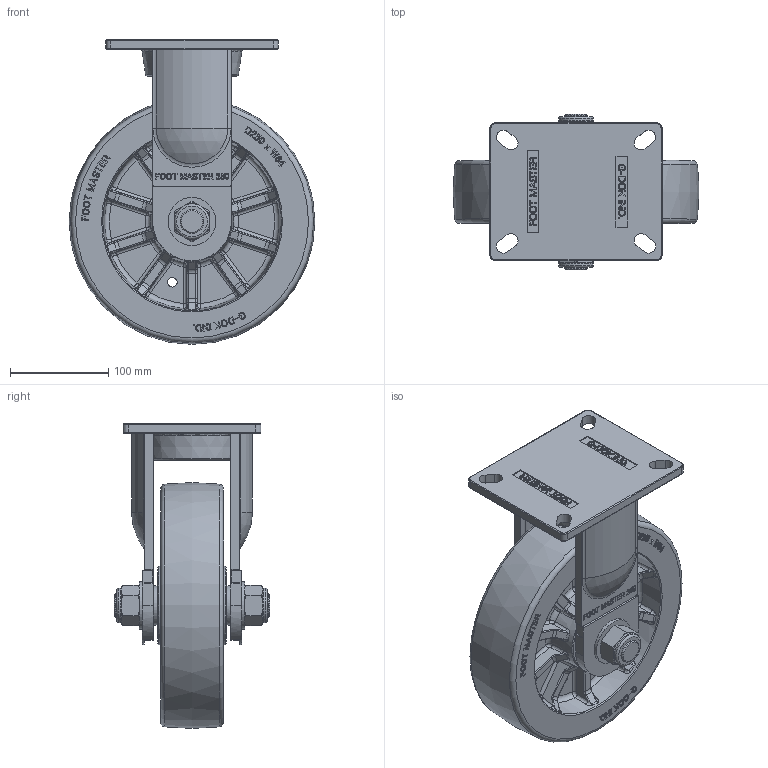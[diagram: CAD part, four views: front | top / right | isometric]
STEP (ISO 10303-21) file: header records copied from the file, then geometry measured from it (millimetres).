
FILE_DESCRIPTION(/* description */ (''),/* implementation_level */ '2;1');
FILE_NAME(/* name */ 'E:\개발도면\GXT-SERIES\GXT-250\\X2\D648D398C774C9C0C6A9B3C4BA74\X0\-20150318\STEP\GXT-250-ARF-HUD.stp',/* time_stamp */ '2015-03-19T10:23:55+09:00',/* author */ ('장용하'),/* organization */ (''),/* preprocessor_version */ 'ST-DEVELOPER v15.6',/* originating_system */ 'Autodesk Inventor 2015',/* authorisation */ '');
FILE_SCHEMA (('AUTOMOTIVE_DESIGN { 1 0 10303 214 3 1 1 }'));
Products named in the file (1): GXT-250-ARF-HUD
Bounding box: 249.98 x 158 x 310 mm (x, y, z)
Volume: 2866232.5 mm3; surface area: 396318.4 mm2
Topology: 1 solids, 3 shells, 2092 faces, 5382 edges, 3415 vertices
Faces by surface type: plane 860, bspline 853, cylinder 268, torus 66, cone 41, sphere 4
Full cylindrical faces by diameter (mm): 24 x2, 35.4 x2, 40 x2, 40.24 x2, 48.7 x2, 51.76 x2
Entity records: 73213 total; most frequent: CARTESIAN_POINT 26956, ORIENTED_EDGE 10646, DIRECTION 7148, EDGE_CURVE 5323, VERTEX_POINT 3399, LINE 2754, VECTOR 2754, EDGE_LOOP 2268
